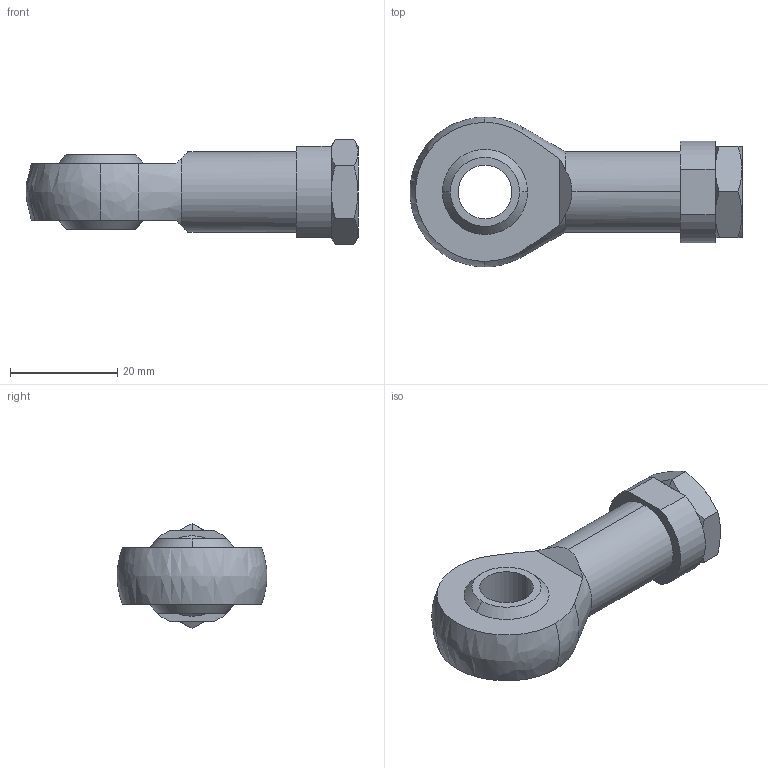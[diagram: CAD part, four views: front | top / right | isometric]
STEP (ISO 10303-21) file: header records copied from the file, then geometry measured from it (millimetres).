
FILE_DESCRIPTION (( 'STEP AP203' ), '1' );
FILE_NAME ('Gelenkkopf_M10x1.25i_GEK-AP6-M10x1.25_536386.step', '2021-07-09T14:20:52', ( '' ), ( '' ), 'SwSTEP 2.0', 'SolidWorks 2020', '' );
FILE_SCHEMA (( 'CONFIG_CONTROL_DESIGN' ));
Length unit declared in the file: millimetre
Products named in the file (1): Gelenkkopf_M10x1.25i_GEK-AP6-M10x1.25_536386
Bounding box: 62 x 28 x 19.63 mm (x, y, z)
Volume: 11265.5 mm3; surface area: 5458.9 mm2
Topology: 2 solids, 2 shells, 54 faces, 134 edges, 83 vertices
Faces by surface type: cone 20, plane 18, cylinder 10, bspline 6
Entity records: 2257 total; most frequent: CARTESIAN_POINT 1008, ORIENTED_EDGE 256, DIRECTION 224, EDGE_CURVE 128, AXIS2_PLACEMENT_3D 97, VERTEX_POINT 83, EDGE_LOOP 63, ADVANCED_FACE 54
